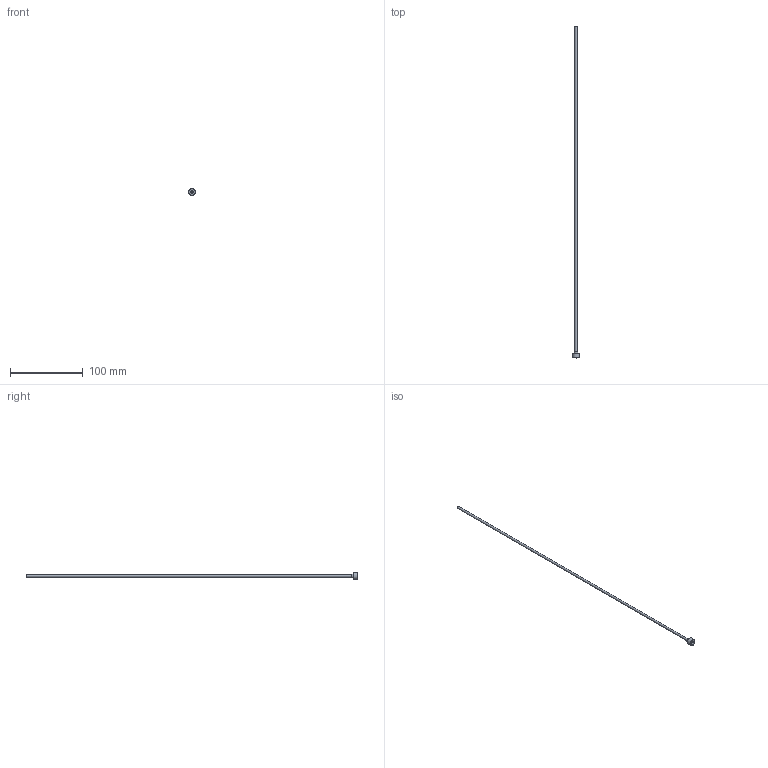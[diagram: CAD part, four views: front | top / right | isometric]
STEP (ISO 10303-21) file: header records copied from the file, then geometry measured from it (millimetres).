
FILE_DESCRIPTION(/* description */ (''),/* implementation_level */ '2;1');
FILE_NAME(/* name */ 'C:/Users/drich/Desktop/PT18-125-18 v2.step',/* time_stamp */ '2019-12-27T15:42:17-06:00',/* author */ (''),/* organization */ (''),/* preprocessor_version */ 'ST-DEVELOPER v18',/* originating_system */ 'Autodesk Translation Framework v8.12.0.6',/* authorisation */ '');
FILE_SCHEMA (('AUTOMOTIVE_DESIGN { 1 0 10303 214 3 1 1 }'));
Length unit declared in the file: inch
Products named in the file (1): PT18-125-18
Bounding box: 9.62 x 457.2 x 9.62 mm (x, y, z)
Volume: 1184.5 mm3; surface area: 8795.6 mm2
Topology: 1 solids, 1 shells, 19 faces, 48 edges, 34 vertices
Faces by surface type: plane 11, cylinder 4, torus 2, cone 2
Full cylindrical faces by diameter (mm): 2.769 x1, 3.15 x1, 5.156 x1, 9.621 x1
Entity records: 633 total; most frequent: DIRECTION 112, CARTESIAN_POINT 102, ORIENTED_EDGE 96, EDGE_CURVE 48, AXIS2_PLACEMENT_3D 44, VERTEX_POINT 34, CIRCLE 24, EDGE_LOOP 24
